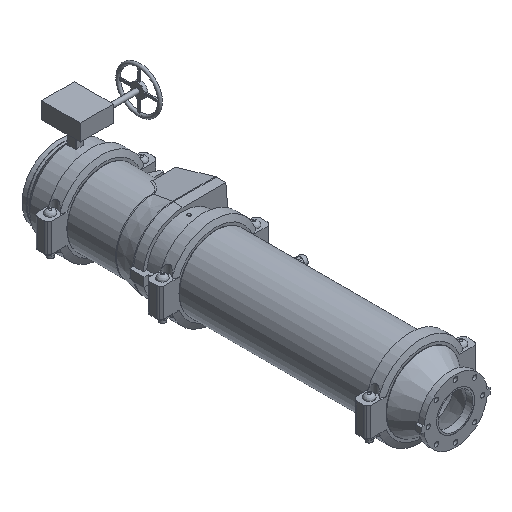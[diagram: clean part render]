
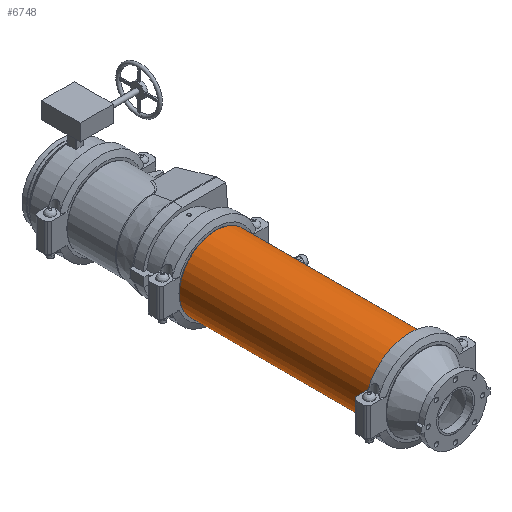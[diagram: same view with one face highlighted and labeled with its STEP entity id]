
A CAD part, isometric view. The second image highlights one B-rep face of the part: STEP entity #6748.
In plain terms, the highlighted cylindrical face has radius 161.925 mm (diameter 323.85 mm), a full revolution.
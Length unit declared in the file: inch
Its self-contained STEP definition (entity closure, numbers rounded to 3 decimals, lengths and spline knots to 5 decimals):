
#526=FACE_OUTER_BOUND('',#924,.T.);
#924=EDGE_LOOP('',(#4508,#4509,#4510,#4511,#4512,#4513));
#1364=LINE('',#10394,#1858);
#1858=VECTOR('',#8347,6.375);
#2374=CIRCLE('',#7401,6.375);
#2375=CIRCLE('',#7402,6.375);
#2376=CIRCLE('',#7404,6.375);
#2377=CIRCLE('',#7405,6.375);
#2776=VERTEX_POINT('',#10385);
#2777=VERTEX_POINT('',#10386);
#2778=VERTEX_POINT('',#10390);
#2779=VERTEX_POINT('',#10391);
#3454=EDGE_CURVE('',#2776,#2777,#2374,.T.);
#3455=EDGE_CURVE('',#2777,#2776,#2375,.T.);
#3456=EDGE_CURVE('',#2778,#2779,#2376,.T.);
#3457=EDGE_CURVE('',#2779,#2778,#2377,.T.);
#3458=EDGE_CURVE('',#2779,#2777,#1364,.T.);
#4508=ORIENTED_EDGE('',*,*,#3456,.F.);
#4509=ORIENTED_EDGE('',*,*,#3457,.F.);
#4510=ORIENTED_EDGE('',*,*,#3458,.T.);
#4511=ORIENTED_EDGE('',*,*,#3455,.T.);
#4512=ORIENTED_EDGE('',*,*,#3454,.T.);
#4513=ORIENTED_EDGE('',*,*,#3458,.F.);
#6228=CYLINDRICAL_SURFACE('',#7403,6.375);
#6748=ADVANCED_FACE('',(#526),#6228,.T.);
#7401=AXIS2_PLACEMENT_3D('',#10387,#8337,#8338);
#7402=AXIS2_PLACEMENT_3D('',#10388,#8339,#8340);
#7403=AXIS2_PLACEMENT_3D('',#10389,#8341,#8342);
#7404=AXIS2_PLACEMENT_3D('',#10392,#8343,#8344);
#7405=AXIS2_PLACEMENT_3D('',#10393,#8345,#8346);
#8337=DIRECTION('center_axis',(1.,0.,0.));
#8338=DIRECTION('ref_axis',(0.,0.,-1.));
#8339=DIRECTION('center_axis',(1.,0.,0.));
#8340=DIRECTION('ref_axis',(0.,0.,-1.));
#8341=DIRECTION('center_axis',(1.,0.,0.));
#8342=DIRECTION('ref_axis',(0.,1.,0.));
#8343=DIRECTION('center_axis',(1.,0.,0.));
#8344=DIRECTION('ref_axis',(0.,0.,-1.));
#8345=DIRECTION('center_axis',(1.,0.,0.));
#8346=DIRECTION('ref_axis',(0.,0.,-1.));
#8347=DIRECTION('',(-1.,0.,0.));
#10385=CARTESIAN_POINT('',(-16.7785,6.375,0.));
#10386=CARTESIAN_POINT('',(-16.7785,-6.375,0.));
#10387=CARTESIAN_POINT('Origin',(-16.7785,0.,0.));
#10388=CARTESIAN_POINT('Origin',(-16.7785,0.,0.));
#10389=CARTESIAN_POINT('Origin',(0.,0.,0.));
#10390=CARTESIAN_POINT('',(16.7785,6.375,0.));
#10391=CARTESIAN_POINT('',(16.7785,-6.375,0.));
#10392=CARTESIAN_POINT('Origin',(16.7785,0.,0.));
#10393=CARTESIAN_POINT('Origin',(16.7785,0.,0.));
#10394=CARTESIAN_POINT('',(0.,-6.375,0.));
